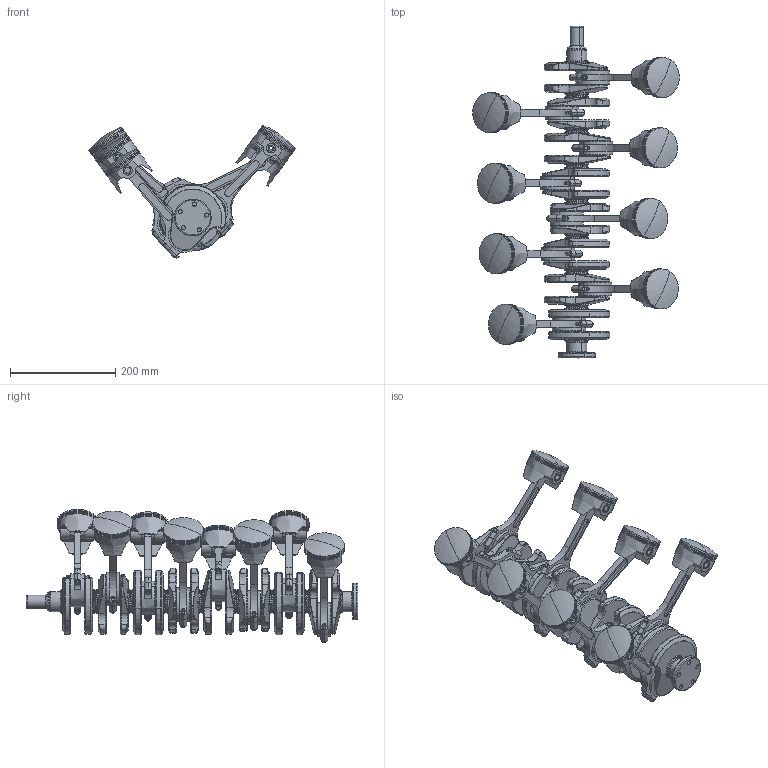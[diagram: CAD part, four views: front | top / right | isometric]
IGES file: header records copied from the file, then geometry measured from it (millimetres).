
Start section: START RECORD GO HERE.
Global section: file name: main assembly.igs; native system: IBM CATIA IGES - CATIA Version 5 Release 19 ; preprocessor: CATIA Version 5 Release 19 ; author: ABHIJEET; organization: ABHIJEET-PC; date: 20111019.223434; units: millimetre
Bounding box: 392.75 x 631.45 x 253.61 mm (x, y, z)
Surface area: 902216 mm2 (no closed solid volume)
Topology: 0 solids, 0 shells, 2258 faces, 10532 edges, 10516 vertices
Faces by surface type: revolution 1468, plane 646, bspline 128, extrusion 16
